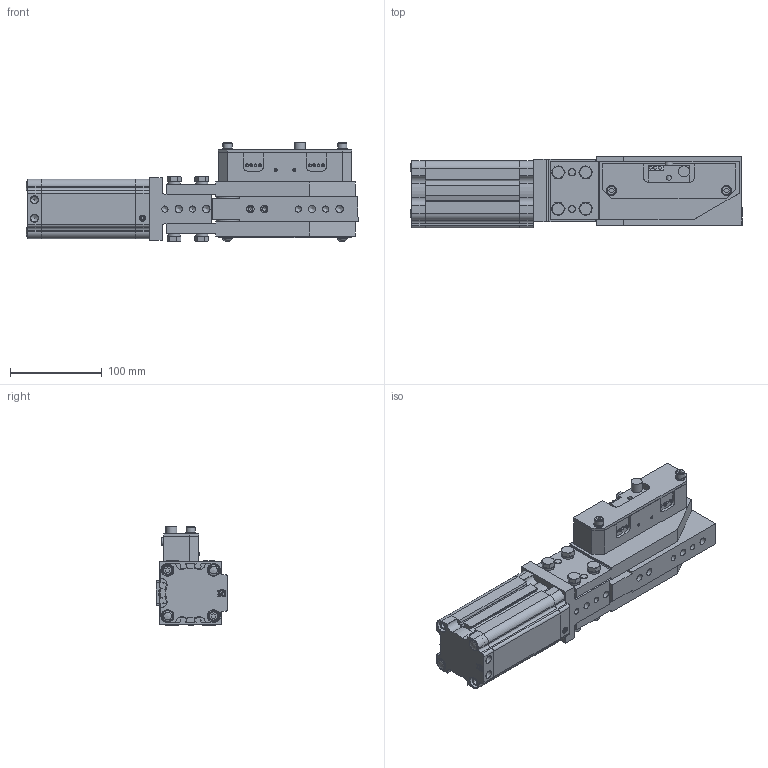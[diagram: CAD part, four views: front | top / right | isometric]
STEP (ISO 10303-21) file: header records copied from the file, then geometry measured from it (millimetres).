
FILE_DESCRIPTION(/* description */ ('PART EJECTOR'),/* implementation_level */ '2;1');
FILE_NAME(/* name */ 'C:\Users\rcarver\Desktop\MPE\MPE030A30ARB000-RETRACTED.stp',/* time_stamp */ '2016-05-25T10:29:45-04:00',/* author */ ('rcarver'),/* organization */ (''),/* preprocessor_version */ 'ST-DEVELOPER v16.5',/* originating_system */ 'Autodesk Inventor 2017',/* authorisation */ '');
FILE_SCHEMA (('AUTOMOTIVE_DESIGN { 1 0 10303 214 3 1 1 }'));
Products named in the file (48): MPE30L01; WCW2148E02-075; MPE30E03N; MPE30E03G; MPE30E09; MPE30E06; MPE30E07; MPE30E08; MPE30E12; WCW2148E04; WCW2148E01; FEF-405-1; GSI-1214-16; M8X1.25-25 HEX; NL8; MPE30E16; 0.500-20 HEXJAMNUT; 0.062-27 NPT PLUG; PLH005A; MA1500x2.00DIA; MC0750X1000-125N; OR-032-RADIAL; OR-011-FACE; TSP-326BN70; TSR-075BN70; TSI-1214-06; M5X0.8-120 SHCS; 0.500X1.000 DOWEL; NL5SP; M6X1-135 SHCS; 0.50ID-SAE; MOR-2.0X016.0bn70; 8mmX20 ; MPE30E14; SH-50; MPE30E15; M6X1-10 BHCS; MPE30E10; MPE30E11; SEE SWITCH CHART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
Assembly tree (88 placements, depth 2):
  MPE30L01
    WCW2148E02-075
    MPE30E03N
    MPE30E03G
    MPE30E09
    MPE30E06  x2
    MPE30E07
    MPE30E08
    MPE30E12
    WCW2148E04
    WCW2148E01
    FEF-405-1  x2
    GSI-1214-16  x2
    M8X1.25-25 HEX  x8
    NL8  x8
    MPE30E16  x4
    0.500-20 HEXJAMNUT
    0.062-27 NPT PLUG
    PLH005A  x2
    MA1500x2.00DIA
    MC0750X1000-125N  x2
    OR-032-RADIAL  x2
    OR-011-FACE  x2
    TSP-326BN70
    TSR-075BN70
    TSI-1214-06
    M5X0.8-120 SHCS  x2
    0.500X1.000 DOWEL
    NL5SP  x2
    M6X1-135 SHCS  x2
    NL6  x4
    0.50ID-SAE
    MOR-2.0X016.0bn70
    8mmX20   x2
    MPE30E14  x2
    SH-50  x4
    MPE30E15
    M6X1-10 BHCS  x2
    MPE30E10
    MPE30E11
    SEE SWITCH CHART
    PIN  x4
    S01
    S02
    MPE30E13
    M5X0.8-25 SHCS
    M6X1-50 SHCS  x2
    90692A694  x2
Bounding box: 361.18 x 78 x 107.43 mm (x, y, z)
Volume: 1358199.2 mm3; surface area: 431283.2 mm2
Topology: 88 solids, 168 shells, 1660 faces, 4099 edges, 2816 vertices
Faces by surface type: plane 803, cylinder 497, cone 175, bspline 157, torus 21, sphere 7
Full cylindrical faces by diameter (mm): 0.01 x1, 1.191 x4, 2 x2, 2.01 x2, 2.4 x8, 3 x2, 3.175 x12, 3.2 x4, 4.134 x3, 4.75 x2, 4.917 x12, 4.978 x4, 5 x3, 5.4 x2, 5.5 x4, 5.944 x1, 6 x9, 6.35 x1, 6.5 x20, 6.647 x14, 7.5 x4, 7.95 x2, 8 x29, 8.05 x2, 8.5 x13, 8.7 x8, 10 x4, 10.5 x2, 10.8 x4, 10.9 x2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
Entity records: 38448 total; most frequent: CARTESIAN_POINT 8662, DIRECTION 5634, ORIENTED_EDGE 5292, EDGE_CURVE 2694, AXIS2_PLACEMENT_3D 2082, VERTEX_POINT 1982, EDGE_LOOP 1852, LINE 1470
